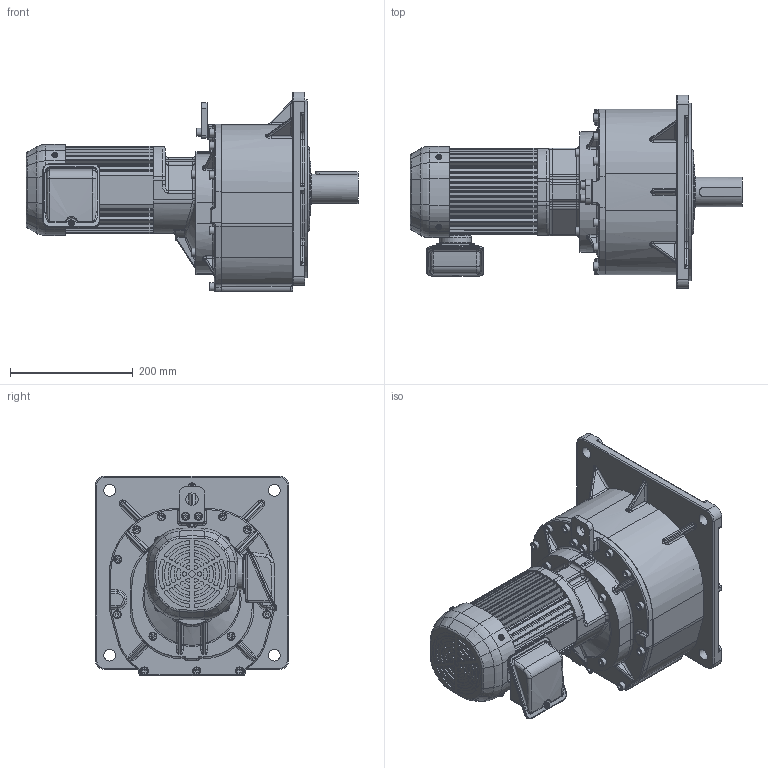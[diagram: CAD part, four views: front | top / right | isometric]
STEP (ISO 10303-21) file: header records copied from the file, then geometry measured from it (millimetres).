
FILE_DESCRIPTION( ( 'Unknown' ), '1' );
FILE_NAME( 'X:/gear/gm/3D-WEB/IE3/SP/ﾊﾟｰﾂ/完成品/spf_075_270-450.stp', 'Unknown', ( 'Unknown' ), ( 'Unknown' ), 'PSStep 14.0', 'Unknown', ' ' );
FILE_SCHEMA( ( 'AUTOMOTIVE_DESIGN { 1 0 10303 214 1 1 1 1 }' ) );
Length unit declared in the file: millimetre
Products named in the file (2): PF08080_Gﾊﾟｯｷﾝ(L48)
Bounding box: 541 x 315 x 325.5 mm (x, y, z)
Volume: 14067040.5 mm3; surface area: 1011570.2 mm2
Topology: 2 solids, 54 shells, 2342 faces, 5766 edges, 3582 vertices
Faces by surface type: cylinder 1011, plane 833, torus 208, bspline 168, cone 93, sphere 29
Full cylindrical faces by diameter (mm): 3.8 x6, 4.134 x4, 4.2 x8, 4.5 x8, 4.8 x1, 5.5 x4, 5.6 x1, 5.8 x4, 6 x8, 6.647 x6, 6.8 x11, 7 x5, 8 x17, 8.2 x1, 9 x11, 10 x23, 12 x2, 13 x19, 13.5 x2, 19 x4, 20 x1, 23 x1, 25 x3, 28.6 x1, 48 x3, 50 x2, 50.1 x1, 51.2 x1, 55 x1, 65 x1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
Entity records: 108054 total; most frequent: CARTESIAN_POINT 35594, DIRECTION 11877, ORIENTED_EDGE 10496, EDGE_CURVE 5248, AXIS2_PLACEMENT_3D 4749, VERTEX_POINT 3439, EDGE_LOOP 2781, FACE_OUTER_BOUND 2545
